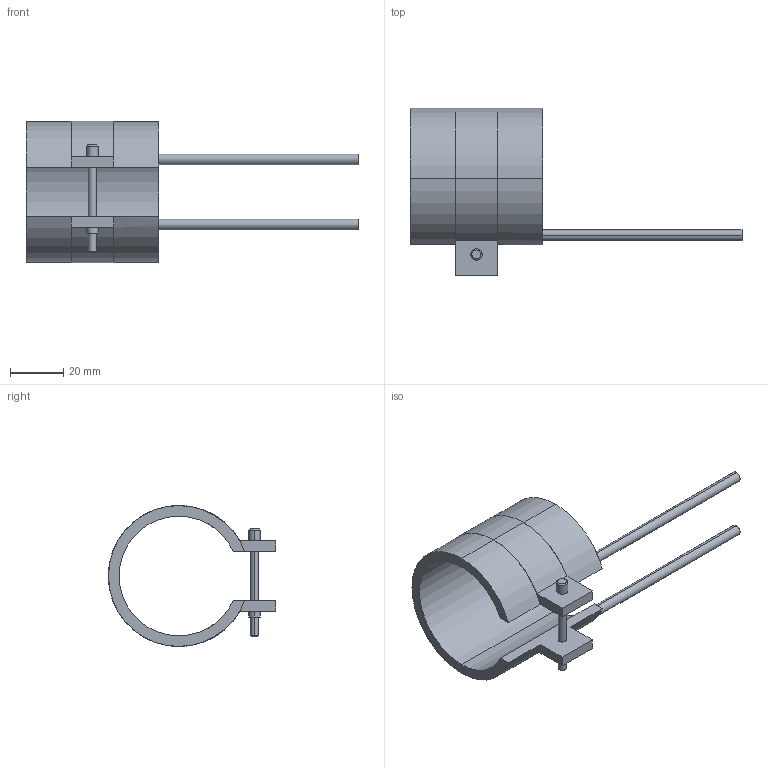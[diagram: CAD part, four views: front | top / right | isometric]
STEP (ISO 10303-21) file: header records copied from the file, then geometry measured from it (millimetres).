
FILE_DESCRIPTION(('CATIA V5 STEP Exchange'),'2;1');
FILE_NAME('C:\Users\Utente\Desktop\IO LAVORO\3D X SITO CF\X SITO\PLASTICA\RF2\14045050.stp','2021-03-31T11:56:51+00:00',('none'),('none'),'CATIA Version 5 Release 20 GA (IN-10)','CATIA V5 STEP AP203','none');
FILE_SCHEMA(('CONFIG_CONTROL_DESIGN'));
Length unit declared in the file: millimetre
Products named in the file (1): 14045050
Bounding box: 125 x 63.1 x 53.2 mm (x, y, z)
Volume: 30982.7 mm3; surface area: 18233.7 mm2
Topology: 1 solids, 1 shells, 45 faces, 116 edges, 76 vertices
Faces by surface type: cylinder 24, plane 17, cone 4
Entity records: 1406 total; most frequent: CARTESIAN_POINT 282, ORIENTED_EDGE 232, DIRECTION 195, EDGE_CURVE 116, AXIS2_PLACEMENT_3D 103, VERTEX_POINT 76, CIRCLE 61, VECTOR 52
